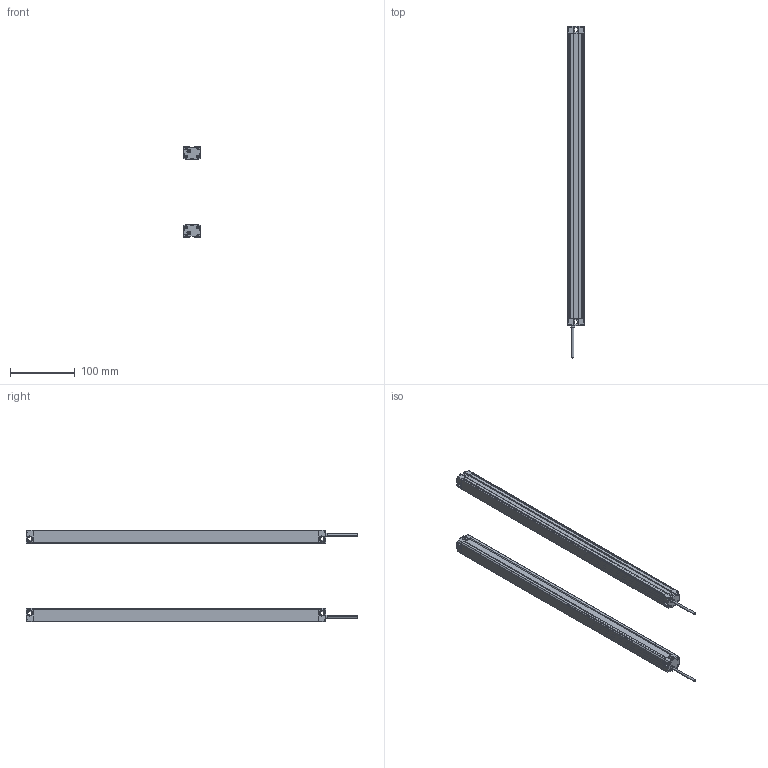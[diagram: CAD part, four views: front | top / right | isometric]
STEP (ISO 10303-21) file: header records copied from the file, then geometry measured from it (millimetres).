
FILE_DESCRIPTION (( 'STEP AP214' ), '1' );
FILE_NAME ('MTC2220.STEP', '2022-08-02T08:58:12', ( '' ), ( '' ), 'SwSTEP 2.0', 'SolidWorks 2018', '' );
FILE_SCHEMA (( 'AUTOMOTIVE_DESIGN' ));
Length unit declared in the file: millimetre
Products named in the file (5): MTC2220; 噩砃P02^MTC; P01^MTC; MTC waike^MTC; P02^MTC
Assembly tree (6 placements, depth 2):
  MTC2220
    MTC waike^MTC  x2
    P01^MTC  x2
    P02^MTC
    噩砃P02^MTC
Bounding box: 25 x 512 x 141.4 mm (x, y, z)
Volume: 157671.4 mm3; surface area: 212777.8 mm2
Topology: 8 solids, 8 shells, 480 faces, 1396 edges, 924 vertices
Faces by surface type: plane 272, cylinder 208
Entity records: 10886 total; most frequent: DIRECTION 1881, CARTESIAN_POINT 1878, ORIENTED_EDGE 1846, EDGE_CURVE 923, AXIS2_PLACEMENT_3D 637, VERTEX_POINT 610, LINE 607, VECTOR 607
